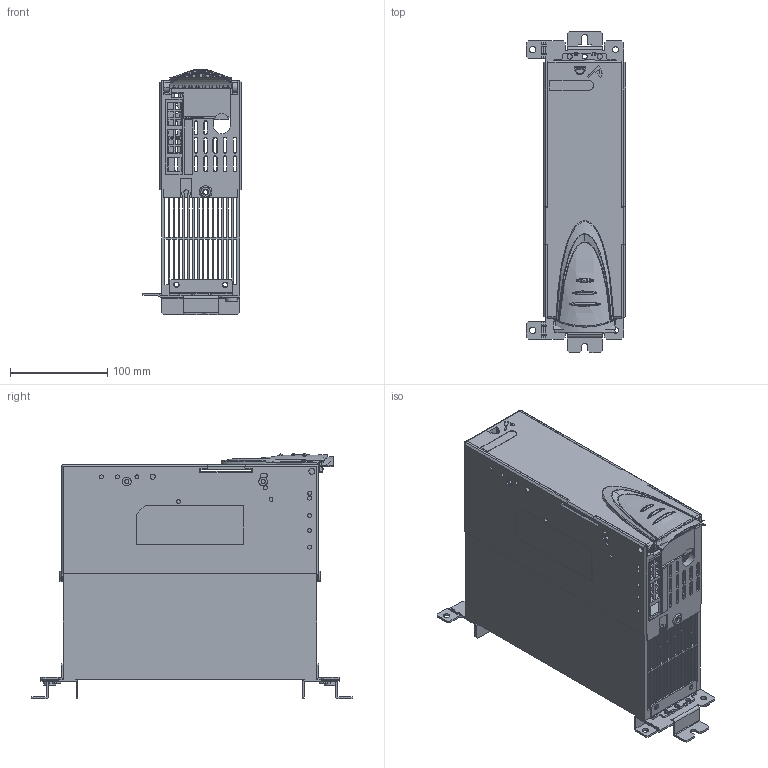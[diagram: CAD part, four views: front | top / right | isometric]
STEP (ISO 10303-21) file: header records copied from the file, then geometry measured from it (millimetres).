
FILE_DESCRIPTION((''),'2;1');
FILE_NAME('EPOWER_100A_IGES','2012-01-09T',('chrisloe'),(''),'PRO/ENGINEER BY PARAMETRIC TECHNOLOGY CORPORATION, 2010180','PRO/ENGINEER BY PARAMETRIC TECHNOLOGY CORPORATION, 2010180','');
FILE_SCHEMA(('CONFIG_CONTROL_DESIGN'));
Products named in the file (1): EPOWER_100A_IGES
Bounding box: 102 x 330 x 252.22 mm (x, y, z)
Volume: 1556117.5 mm3; surface area: 1189860.4 mm2
Topology: 1 solids, 14 shells, 2471 faces, 6846 edges, 4338 vertices
Faces by surface type: plane 1728, cylinder 431, bspline 125, cone 103, torus 49, sphere 21, extrusion 14
Entity records: 89907 total; most frequent: CARTESIAN_POINT 27468, ORIENTED_EDGE 13632, DIRECTION 11848, EDGE_CURVE 6824, VECTOR 5210, LINE 5196, VERTEX_POINT 4338, AXIS2_PLACEMENT_3D 3319
